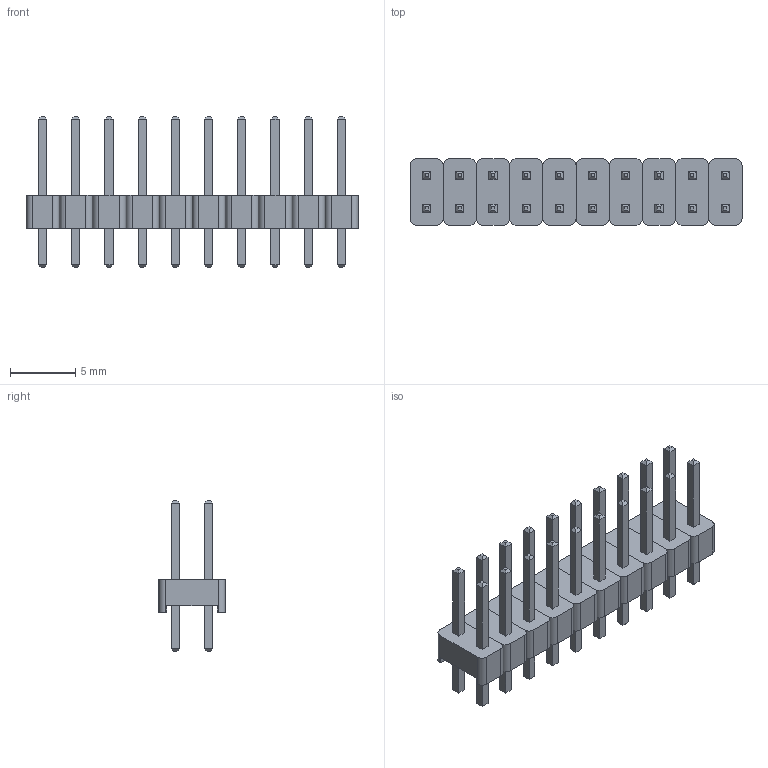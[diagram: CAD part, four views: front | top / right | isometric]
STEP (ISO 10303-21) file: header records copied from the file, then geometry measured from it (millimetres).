
FILE_DESCRIPTION(('FreeCAD Model'),'2;1');
FILE_NAME('Open CASCADE Shape Model','2022-04-06T15:56:27',( 'Engenharia Metaltex'),('Metaltex'), 'Open CASCADE STEP processor 7.5','FreeCAD','Unknown');
FILE_SCHEMA(('AUTOMOTIVE_DESIGN { 1 0 10303 214 1 1 1 1 }'));
Length unit declared in the file: millimetre
Products named in the file (41): BPDC; 1; Base; Pino1; Pino2; 2; Base001; Pino003; Pino004; 3; Base002; Pino006; Pino005; 4; Base003; Pino008; Pino007; 5; Base004; Pino009; Pino010; 6; Base005; Pino012; Pino011; 7; Base006; Pino013; Pino014; 8; Base007; Pino015; Pino016; 9; Base008; Pino017; Pino018; 10; Base009; Pino019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
Assembly tree (40 placements, depth 3):
  BPDC
    1
      Base
      Pino1
      Pino2
    2
      Base001
      Pino003
      Pino004
    3
      Base002
      Pino006
      Pino005
    4
      Base003
      Pino008
      Pino007
    5
      Base004
      Pino009
      Pino010
    6
      Base005
      Pino012
      Pino011
    7
      Base006
      Pino013
      Pino014
    8
      Base007
      Pino015
      Pino016
    9
      Base008
      Pino017
      Pino018
    10
      Base009
      Pino019
      Pino020
Bounding box: 25.4 x 5.08 x 11.54 mm (x, y, z)
Volume: 349.2 mm3; surface area: 1286.3 mm2
Topology: 30 solids, 30 shells, 500 faces, 1160 edges, 720 vertices
Faces by surface type: plane 460, cylinder 40
Entity records: 30019 total; most frequent: CARTESIAN_POINT 4981, DIRECTION 4602, LINE 3320, VECTOR 3320, ORIENTED_EDGE 2320, PCURVE 2320, DEFINITIONAL_REPRESENTATION 2320, EDGE_CURVE 1160
